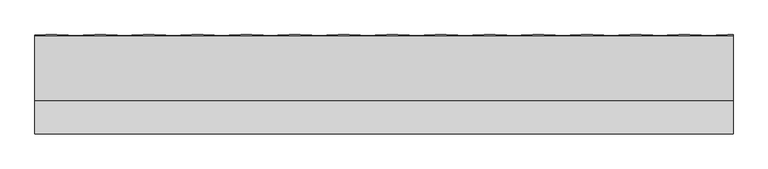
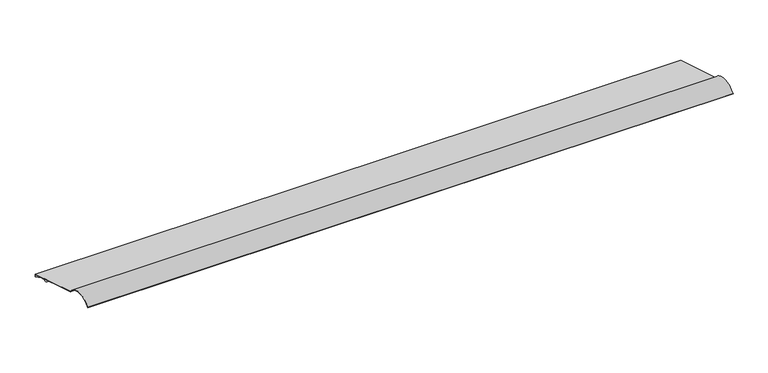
"""IFC4 building model written with IfcOpenShell, lengths in millimetres: proxy geometry, H20.F20.003-B-REMATES TEJA-Cumbrera Troquelada : Cumbrera Troquelada Teja."""

from ifc_helpers import new_model, si_unit, point, frame, origin, place, context, project, spatial, polyline, circle_curve, ellipse_curve, trimmed, source, transform, mapped, element, save
from ifc_brep_helpers import plane_surface, cylinder_surface, revolved_surface, extruded_surface, advanced_brep


def generic_models_2663ef57(model_context):
    return source(origin(), model_context, "Body", "AdvancedBrep", [
        advanced_brep(
        [(2500.0, 281.4033726, -80.897882), (2500.0, 283.699857, -124.7174144), (2500.0, 285.2976643, -124.6336769), (2500.0, 282.9425462, -79.6953478), (2500.0, 58.2444748, -10.9982533), (2500.0, -54.2044834, -5.8308046), (2500.0, -52.9905575, -6.8731021), (2500.0, 57.2523162, -12.3680268), (110.0, 57.2523162, -12.3680268), (110.0, 281.4033726, -80.897882), (110.0, -52.9905575, -6.8731021), (110.0, -54.2044834, -5.8308046), (110.0, 58.2444748, -10.9982533), (110.0, 282.9425462, -79.6953478), (2487.8721739, 285.2976643, -124.6336769), (2480.9580237, 285.0927503, -120.7236858), (2352.1819763, 285.0927503, -120.7236858), (2345.2678261, 285.2976643, -124.6336769), (2321.2121739, 285.2976643, -124.6336769), (2314.2980237, 285.0927503, -120.7236858), (2185.5219763, 285.0927503, -120.7236858), (2178.6078261, 285.2976643, -124.6336769), (2154.5521739, 285.2976643, -124.6336769), (2147.6380237, 285.0927503, -120.7236858), (2018.8619763, 285.0927503, -120.7236858), (2011.9478261, 285.2976643, -124.6336769), (1987.8921739, 285.2976643, -124.6336769), (1980.9780237, 285.0927503, -120.7236858), (1852.2019763, 285.0927503, -120.7236858), (1845.2878261, 285.2976643, -124.6336769), (1821.2321739, 285.2976643, -124.6336769), (1814.3180237, 285.0927503, -120.7236858), (1685.5419763, 285.0927503, -120.7236858), (1678.6278261, 285.2976643, -124.6336769), (1654.5721739, 285.2976643, -124.6336769), (1647.6580237, 285.0927503, -120.7236858), (1518.8819763, 285.0927503, -120.7236858), (1511.9678261, 285.2976643, -124.6336769), (1487.9121739, 285.2976643, -124.6336769), (1480.9980237, 285.0927503, -120.7236858), (1352.2219763, 285.0927503, -120.7236858), (1345.3078261, 285.2976643, -124.6336769), (1321.2521739, 285.2976643, -124.6336769), (1314.3380237, 285.0927503, -120.7236858), (1185.5619763, 285.0927503, -120.7236858), (1178.6478261, 285.2976643, -124.6336769), (1154.5921739, 285.2976643, -124.6336769), (1147.6780237, 285.0927503, -120.7236858), (1018.9019763, 285.0927503, -120.7236858), (1011.9878261, 285.2976643, -124.6336769), (987.9321739, 285.2976643, -124.6336769), (981.0180237, 285.0927503, -120.7236858), (852.2419763, 285.0927503, -120.7236858), (845.3278261, 285.2976643, -124.6336769), (821.2721739, 285.2976643, -124.6336769), (814.3580237, 285.0927503, -120.7236858), (685.5819763, 285.0927503, -120.7236858), (678.6678261, 285.2976643, -124.6336769), (654.6121739, 285.2976643, -124.6336769), (647.6980237, 285.0927503, -120.7236858), (518.9219763, 285.0927503, -120.7236858), (512.0078261, 285.2976643, -124.6336769), (487.9521739, 285.2976643, -124.6336769), (481.0380237, 285.0927503, -120.7236858), (352.2619763, 285.0927503, -120.7236858), (345.3478261, 285.2976643, -124.6336769), (321.2921739, 285.2976643, -124.6336769), (314.3780237, 285.0927503, -120.7236858), (185.6019763, 285.0927503, -120.7236858), (178.6878261, 285.2976643, -124.6336769), (154.6321739, 285.2976643, -124.6336769), (147.7180237, 285.0927503, -120.7236858), (110.0, 283.4389649, -89.1675796), (2487.8721739, 283.699857, -124.7174144), (178.6878261, 283.699857, -124.7174144), (154.6321739, 283.699857, -124.7174144), (345.3478261, 283.699857, -124.7174144), (321.2921739, 283.699857, -124.7174144), (512.0078261, 283.699857, -124.7174144), (487.9521739, 283.699857, -124.7174144), (678.6678261, 283.699857, -124.7174144), (654.6121739, 283.699857, -124.7174144), (845.3278261, 283.699857, -124.7174144), (821.2721739, 283.699857, -124.7174144), (1011.9878261, 283.699857, -124.7174144), (987.9321739, 283.699857, -124.7174144), (1178.6478261, 283.699857, -124.7174144), (1154.5921739, 283.699857, -124.7174144), (1345.3078261, 283.699857, -124.7174144), (1321.2521739, 283.699857, -124.7174144), (1511.9678261, 283.699857, -124.7174144), (1487.9121739, 283.699857, -124.7174144), (1678.6278261, 283.699857, -124.7174144), (1654.5721739, 283.699857, -124.7174144), (1845.2878261, 283.699857, -124.7174144), (1821.2321739, 283.699857, -124.7174144), (2011.9478261, 283.699857, -124.7174144), (1987.8921739, 283.699857, -124.7174144), (2178.6078261, 283.699857, -124.7174144), (2154.5521739, 283.699857, -124.7174144), (2345.2678261, 283.699857, -124.7174144), (2321.2121739, 283.699857, -124.7174144), (110.0, 281.8411576, -89.2513172), (147.7180237, 283.494943, -120.8074234), (185.6019763, 283.494943, -120.8074234), (314.3780237, 283.494943, -120.8074234), (352.2619763, 283.494943, -120.8074234), (481.0380237, 283.494943, -120.8074234), (518.9219763, 283.494943, -120.8074234), (647.6980237, 283.494943, -120.8074234), (685.5819763, 283.494943, -120.8074234), (814.3580237, 283.494943, -120.8074234), (852.2419763, 283.494943, -120.8074234), (981.0180237, 283.494943, -120.8074234), (1018.9019763, 283.494943, -120.8074234), (1147.6780237, 283.494943, -120.8074234), (1185.5619763, 283.494943, -120.8074234), (1314.3380237, 283.494943, -120.8074234), (1352.2219763, 283.494943, -120.8074234), (1480.9980237, 283.494943, -120.8074234), (1518.8819763, 283.494943, -120.8074234), (1647.6580237, 283.494943, -120.8074234), (1685.5419763, 283.494943, -120.8074234), (1814.3180237, 283.494943, -120.8074234), (1852.2019763, 283.494943, -120.8074234), (1980.9780237, 283.494943, -120.8074234), (2018.8619763, 283.494943, -120.8074234), (2147.6380237, 283.494943, -120.8074234), (2185.5219763, 283.494943, -120.8074234), (2314.2980237, 283.494943, -120.8074234), (2352.1819763, 283.494943, -120.8074234), (2480.9580237, 283.494943, -120.8074234)],
        [
            (0, 1),
            (1, 2),
            (2, 3),
            (3, 4),
            (4, 5, circle_curve(frame((2500.0, 0.0, -52.3716984), z_axis=(1.0, 0.0, 0.0), x_axis=(0.0, 1.0, 0.0)), 71.4435498)),
            (5, 6),
            (6, 7, circle_curve(frame((2500.0, 0.0, -52.3716984), z_axis=(-1.0, 0.0, 0.0), x_axis=(0.0, 1.0, 0.0)), 69.8435498)),
            (7, 0),
            (7, 8),
            (8, 9),
            (9, 0),
            (6, 10),
            (10, 8, circle_curve(frame((110.0, 0.0, -52.3716984), z_axis=(-1.0, 0.0, 0.0), x_axis=(0.0, 1.0, 0.0)), 69.8435498)),
            (5, 11),
            (11, 10),
            (4, 12),
            (12, 11, circle_curve(frame((110.0, 0.0, -52.3716984), z_axis=(1.0, 0.0, 0.0), x_axis=(0.0, 1.0, 0.0)), 71.4435498)),
            (3, 13),
            (13, 12),
            (2, 14),
            (14, 15, ellipse_curve(frame((2487.8721739, 284.8853374, -116.766012), z_axis=(0.0, 0.998629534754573, 0.052335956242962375), x_axis=(1.0, 0.0, 0.0)), 8.0, 7.878462)),
            (15, 16, ellipse_curve(frame((2416.57, 287.0242829, -157.5795235), z_axis=(0.0, -0.998629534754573, -0.052335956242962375), x_axis=(1.0, 0.0, 0.0)), 74.5, 73.3681776)),
            (16, 17, ellipse_curve(frame((2345.2678261, 284.8853374, -116.766012), z_axis=(0.0, 0.998629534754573, 0.052335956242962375), x_axis=(1.0, 0.0, 0.0)), 8.0, 7.878462)),
            (17, 18),
            (18, 19, ellipse_curve(frame((2321.2121739, 284.8853374, -116.766012), z_axis=(0.0, 0.998629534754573, 0.052335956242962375), x_axis=(1.0, 0.0, 0.0)), 8.0, 7.878462)),
            (19, 20, ellipse_curve(frame((2249.91, 287.0242829, -157.5795235), z_axis=(0.0, -0.998629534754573, -0.052335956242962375), x_axis=(1.0, 0.0, 0.0)), 74.5, 73.3681776)),
            (20, 21, ellipse_curve(frame((2178.6078261, 284.8853374, -116.766012), z_axis=(0.0, 0.998629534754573, 0.052335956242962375), x_axis=(1.0, 0.0, 0.0)), 8.0, 7.878462)),
            (21, 22),
            (22, 23, ellipse_curve(frame((2154.5521739, 284.8853374, -116.766012), z_axis=(0.0, 0.998629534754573, 0.0523359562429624), x_axis=(1.0, 0.0, 0.0)), 8.0, 7.878462)),
            (23, 24, ellipse_curve(frame((2083.25, 287.0242829, -157.5795235), z_axis=(0.0, -0.998629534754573, -0.052335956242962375), x_axis=(1.0, 0.0, 0.0)), 74.5, 73.3681776)),
            (24, 25, ellipse_curve(frame((2011.9478261, 284.8853374, -116.766012), z_axis=(0.0, 0.998629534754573, 0.052335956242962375), x_axis=(1.0, 0.0, 0.0)), 8.0, 7.878462)),
            (25, 26),
            (26, 27, ellipse_curve(frame((1987.8921739, 284.8853374, -116.766012), z_axis=(0.0, 0.998629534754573, 0.05233595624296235), x_axis=(1.0, 0.0, 0.0)), 8.0, 7.878462)),
            (27, 28, ellipse_curve(frame((1916.59, 287.0242829, -157.5795235), z_axis=(0.0, -0.998629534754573, -0.052335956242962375), x_axis=(1.0, 0.0, 0.0)), 74.5, 73.3681776)),
            (28, 29, ellipse_curve(frame((1845.2878261, 284.8853374, -116.766012), z_axis=(0.0, 0.998629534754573, 0.05233595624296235), x_axis=(1.0, 0.0, 0.0)), 8.0, 7.878462)),
            (29, 30),
            (30, 31, ellipse_curve(frame((1821.2321739, 284.8853374, -116.766012), z_axis=(0.0, 0.998629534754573, 0.052335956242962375), x_axis=(1.0, 0.0, 0.0)), 8.0, 7.878462)),
            (31, 32, ellipse_curve(frame((1749.93, 287.0242829, -157.5795235), z_axis=(0.0, -0.998629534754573, -0.052335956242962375), x_axis=(1.0, 0.0, 0.0)), 74.5, 73.3681776)),
            (32, 33, ellipse_curve(frame((1678.6278261, 284.8853374, -116.766012), z_axis=(0.0, 0.998629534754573, 0.052335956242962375), x_axis=(1.0, 0.0, 0.0)), 8.0, 7.878462)),
            (33, 34),
            (34, 35, ellipse_curve(frame((1654.5721739, 284.8853374, -116.766012), z_axis=(0.0, 0.998629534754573, 0.052335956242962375), x_axis=(1.0, 0.0, 0.0)), 8.0, 7.878462)),
            (35, 36, ellipse_curve(frame((1583.27, 287.0242829, -157.5795235), z_axis=(0.0, -0.998629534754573, -0.052335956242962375), x_axis=(1.0, 0.0, 0.0)), 74.5, 73.3681776)),
            (36, 37, ellipse_curve(frame((1511.9678261, 284.8853374, -116.766012), z_axis=(0.0, 0.998629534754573, 0.052335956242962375), x_axis=(1.0, 0.0, 0.0)), 8.0, 7.878462)),
            (37, 38),
            (38, 39, ellipse_curve(frame((1487.9121739, 284.8853374, -116.766012), z_axis=(0.0, 0.998629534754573, 0.0523359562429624), x_axis=(1.0, 0.0, 0.0)), 8.0, 7.878462)),
            (39, 40, ellipse_curve(frame((1416.61, 287.0242829, -157.5795235), z_axis=(0.0, -0.998629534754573, -0.052335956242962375), x_axis=(1.0, 0.0, 0.0)), 74.5, 73.3681776)),
            (40, 41, ellipse_curve(frame((1345.3078261, 284.8853374, -116.766012), z_axis=(0.0, 0.998629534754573, 0.052335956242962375), x_axis=(1.0, 0.0, 0.0)), 8.0, 7.878462)),
            (41, 42),
            (42, 43, ellipse_curve(frame((1321.2521739, 284.8853374, -116.766012), z_axis=(0.0, 0.998629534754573, 0.05233595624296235), x_axis=(1.0, 0.0, 0.0)), 8.0, 7.878462)),
            (43, 44, ellipse_curve(frame((1249.95, 287.0242829, -157.5795235), z_axis=(0.0, -0.998629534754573, -0.052335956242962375), x_axis=(1.0, 0.0, 0.0)), 74.5, 73.3681776)),
            (44, 45, ellipse_curve(frame((1178.6478261, 284.8853374, -116.766012), z_axis=(0.0, 0.998629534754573, 0.052335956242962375), x_axis=(1.0, 0.0, 0.0)), 8.0, 7.878462)),
            (45, 46),
            (46, 47, ellipse_curve(frame((1154.5921739, 284.8853374, -116.766012), z_axis=(0.0, 0.998629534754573, 0.052335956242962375), x_axis=(1.0, 0.0, 0.0)), 8.0, 7.878462)),
            (47, 48, ellipse_curve(frame((1083.29, 287.0242829, -157.5795235), z_axis=(0.0, -0.998629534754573, -0.0523359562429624), x_axis=(1.0, 0.0, 0.0)), 74.5, 73.3681776)),
            (48, 49, ellipse_curve(frame((1011.9878261, 284.8853374, -116.766012), z_axis=(0.0, 0.998629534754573, 0.052335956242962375), x_axis=(1.0, 0.0, 0.0)), 8.0, 7.878462)),
            (49, 50),
            (50, 51, ellipse_curve(frame((987.9321739, 284.8853374, -116.766012), z_axis=(0.0, 0.998629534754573, 0.052335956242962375), x_axis=(1.0, 0.0, 0.0)), 8.0, 7.878462)),
            (51, 52, ellipse_curve(frame((916.63, 287.0242829, -157.5795235), z_axis=(0.0, -0.998629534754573, -0.052335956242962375), x_axis=(1.0, 0.0, 0.0)), 74.5, 73.3681776)),
            (52, 53, ellipse_curve(frame((845.3278261, 284.8853374, -116.766012), z_axis=(0.0, 0.998629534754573, 0.052335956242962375), x_axis=(1.0, 0.0, 0.0)), 8.0, 7.878462)),
            (53, 54),
            (54, 55, ellipse_curve(frame((821.2721739, 284.8853374, -116.766012), z_axis=(0.0, 0.998629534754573, 0.052335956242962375), x_axis=(1.0, 0.0, 0.0)), 8.0, 7.878462)),
            (55, 56, ellipse_curve(frame((749.97, 287.0242829, -157.5795235), z_axis=(0.0, -0.998629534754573, -0.052335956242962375), x_axis=(1.0, 0.0, 0.0)), 74.5, 73.3681776)),
            (56, 57, ellipse_curve(frame((678.6678261, 284.8853374, -116.766012), z_axis=(0.0, 0.998629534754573, 0.052335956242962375), x_axis=(1.0, 0.0, 0.0)), 8.0, 7.878462)),
            (57, 58),
            (58, 59, ellipse_curve(frame((654.6121739, 284.8853374, -116.766012), z_axis=(0.0, 0.998629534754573, 0.052335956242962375), x_axis=(1.0, 0.0, 0.0)), 8.0, 7.878462)),
            (59, 60, ellipse_curve(frame((583.31, 287.0242829, -157.5795235), z_axis=(0.0, -0.998629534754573, -0.052335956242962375), x_axis=(1.0, 0.0, 0.0)), 74.5, 73.3681776)),
            (60, 61, ellipse_curve(frame((512.0078261, 284.8853374, -116.766012), z_axis=(0.0, 0.998629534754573, 0.052335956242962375), x_axis=(1.0, 0.0, 0.0)), 8.0, 7.878462)),
            (61, 62),
            (62, 63, ellipse_curve(frame((487.9521739, 284.8853374, -116.766012), z_axis=(0.0, 0.998629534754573, 0.052335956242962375), x_axis=(1.0, 0.0, 0.0)), 8.0, 7.878462)),
            (63, 64, ellipse_curve(frame((416.65, 287.0242829, -157.5795235), z_axis=(0.0, -0.998629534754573, -0.052335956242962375), x_axis=(1.0, 0.0, 0.0)), 74.5, 73.3681776)),
            (64, 65, ellipse_curve(frame((345.3478261, 284.8853374, -116.766012), z_axis=(0.0, 0.998629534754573, 0.052335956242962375), x_axis=(1.0, 0.0, 0.0)), 8.0, 7.878462)),
            (65, 66),
            (66, 67, ellipse_curve(frame((321.2921739, 284.8853374, -116.766012), z_axis=(0.0, 0.998629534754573, 0.0523359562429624), x_axis=(1.0, 0.0, 0.0)), 8.0, 7.878462)),
            (67, 68, ellipse_curve(frame((249.99, 287.0242829, -157.5795235), z_axis=(0.0, -0.998629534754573, -0.052335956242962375), x_axis=(1.0, 0.0, 0.0)), 74.5, 73.3681776)),
            (68, 69, ellipse_curve(frame((178.6878261, 284.8853374, -116.766012), z_axis=(0.0, 0.998629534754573, 0.052335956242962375), x_axis=(1.0, 0.0, 0.0)), 8.0, 7.878462)),
            (69, 70),
            (70, 71, ellipse_curve(frame((154.6321739, 284.8853374, -116.766012), z_axis=(0.0, 0.998629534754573, 0.052335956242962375), x_axis=(1.0, 0.0, 0.0)), 8.0, 7.878462)),
            (71, 72, ellipse_curve(frame((83.33, 287.0242829, -157.5795235), z_axis=(0.0, -0.998629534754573, -0.052335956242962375), x_axis=(1.0, 0.0, 0.0)), 74.5, 73.3681776)),
            (72, 13),
            (1, 73),
            (73, 14),
            (69, 74),
            (74, 75),
            (75, 70),
            (65, 76),
            (76, 77),
            (77, 66),
            (61, 78),
            (78, 79),
            (79, 62),
            (57, 80),
            (80, 81),
            (81, 58),
            (53, 82),
            (82, 83),
            (83, 54),
            (49, 84),
            (84, 85),
            (85, 50),
            (45, 86),
            (86, 87),
            (87, 46),
            (41, 88),
            (88, 89),
            (89, 42),
            (37, 90),
            (90, 91),
            (91, 38),
            (33, 92),
            (92, 93),
            (93, 34),
            (29, 94),
            (94, 95),
            (95, 30),
            (25, 96),
            (96, 97),
            (97, 26),
            (21, 98),
            (98, 99),
            (99, 22),
            (17, 100),
            (100, 101),
            (101, 18),
            (9, 102),
            (102, 103, ellipse_curve(frame((83.33, 285.4264757, -157.663261), z_axis=(0.0, 0.998629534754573, 0.052335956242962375), x_axis=(1.0, 0.0, 0.0)), 74.5, 73.3681776)),
            (103, 75, ellipse_curve(frame((154.6321739, 283.2875302, -116.8497495), z_axis=(0.0, -0.998629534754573, -0.052335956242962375), x_axis=(1.0, 0.0, 0.0)), 8.0, 7.878462)),
            (74, 104, ellipse_curve(frame((178.6878261, 283.2875302, -116.8497495), z_axis=(0.0, -0.998629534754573, -0.052335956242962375), x_axis=(1.0, 0.0, 0.0)), 8.0, 7.878462)),
            (104, 105, ellipse_curve(frame((249.99, 285.4264757, -157.663261), z_axis=(0.0, 0.998629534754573, 0.052335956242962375), x_axis=(1.0, 0.0, 0.0)), 74.5, 73.3681776)),
            (105, 77, ellipse_curve(frame((321.2921739, 283.2875302, -116.8497495), z_axis=(0.0, -0.998629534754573, -0.0523359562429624), x_axis=(1.0, 0.0, 0.0)), 8.0, 7.878462)),
            (76, 106, ellipse_curve(frame((345.3478261, 283.2875302, -116.8497495), z_axis=(0.0, -0.998629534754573, -0.052335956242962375), x_axis=(1.0, 0.0, 0.0)), 8.0, 7.878462)),
            (106, 107, ellipse_curve(frame((416.65, 285.4264757, -157.663261), z_axis=(0.0, 0.998629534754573, 0.052335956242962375), x_axis=(1.0, 0.0, 0.0)), 74.5, 73.3681776)),
            (107, 79, ellipse_curve(frame((487.9521739, 283.2875302, -116.8497495), z_axis=(0.0, -0.998629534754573, -0.052335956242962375), x_axis=(1.0, 0.0, 0.0)), 8.0, 7.878462)),
            (78, 108, ellipse_curve(frame((512.0078261, 283.2875302, -116.8497495), z_axis=(0.0, -0.998629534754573, -0.052335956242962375), x_axis=(1.0, 0.0, 0.0)), 8.0, 7.878462)),
            (108, 109, ellipse_curve(frame((583.31, 285.4264757, -157.663261), z_axis=(0.0, 0.998629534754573, 0.052335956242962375), x_axis=(1.0, 0.0, 0.0)), 74.5, 73.3681776)),
            (109, 81, ellipse_curve(frame((654.6121739, 283.2875302, -116.8497495), z_axis=(0.0, -0.998629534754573, -0.052335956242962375), x_axis=(1.0, 0.0, 0.0)), 8.0, 7.878462)),
            (80, 110, ellipse_curve(frame((678.6678261, 283.2875302, -116.8497495), z_axis=(0.0, -0.998629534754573, -0.052335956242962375), x_axis=(1.0, 0.0, 0.0)), 8.0, 7.878462)),
            (110, 111, ellipse_curve(frame((749.97, 285.4264757, -157.663261), z_axis=(0.0, 0.998629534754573, 0.052335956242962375), x_axis=(1.0, 0.0, 0.0)), 74.5, 73.3681776)),
            (111, 83, ellipse_curve(frame((821.2721739, 283.2875302, -116.8497495), z_axis=(0.0, -0.998629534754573, -0.052335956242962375), x_axis=(1.0, 0.0, 0.0)), 8.0, 7.878462)),
            (82, 112, ellipse_curve(frame((845.3278261, 283.2875302, -116.8497495), z_axis=(0.0, -0.998629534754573, -0.052335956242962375), x_axis=(1.0, 0.0, 0.0)), 8.0, 7.878462)),
            (112, 113, ellipse_curve(frame((916.63, 285.4264757, -157.663261), z_axis=(0.0, 0.998629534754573, 0.052335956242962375), x_axis=(1.0, 0.0, 0.0)), 74.5, 73.3681776)),
            (113, 85, ellipse_curve(frame((987.9321739, 283.2875302, -116.8497495), z_axis=(0.0, -0.998629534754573, -0.052335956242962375), x_axis=(1.0, 0.0, 0.0)), 8.0, 7.878462)),
            (84, 114, ellipse_curve(frame((1011.9878261, 283.2875302, -116.8497495), z_axis=(0.0, -0.998629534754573, -0.052335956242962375), x_axis=(1.0, 0.0, 0.0)), 8.0, 7.878462)),
            (114, 115, ellipse_curve(frame((1083.29, 285.4264757, -157.663261), z_axis=(0.0, 0.998629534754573, 0.0523359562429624), x_axis=(1.0, 0.0, 0.0)), 74.5, 73.3681776)),
            (115, 87, ellipse_curve(frame((1154.5921739, 283.2875302, -116.8497495), z_axis=(0.0, -0.998629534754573, -0.052335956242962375), x_axis=(1.0, 0.0, 0.0)), 8.0, 7.878462)),
            (86, 116, ellipse_curve(frame((1178.6478261, 283.2875302, -116.8497495), z_axis=(0.0, -0.998629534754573, -0.052335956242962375), x_axis=(1.0, 0.0, 0.0)), 8.0, 7.878462)),
            (116, 117, ellipse_curve(frame((1249.95, 285.4264757, -157.663261), z_axis=(0.0, 0.998629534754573, 0.052335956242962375), x_axis=(1.0, 0.0, 0.0)), 74.5, 73.3681776)),
            (117, 89, ellipse_curve(frame((1321.2521739, 283.2875302, -116.8497495), z_axis=(0.0, -0.998629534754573, -0.05233595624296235), x_axis=(1.0, 0.0, 0.0)), 8.0, 7.878462)),
            (88, 118, ellipse_curve(frame((1345.3078261, 283.2875302, -116.8497495), z_axis=(0.0, -0.998629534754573, -0.052335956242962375), x_axis=(1.0, 0.0, 0.0)), 8.0, 7.878462)),
            (118, 119, ellipse_curve(frame((1416.61, 285.4264757, -157.663261), z_axis=(0.0, 0.998629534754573, 0.052335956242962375), x_axis=(1.0, 0.0, 0.0)), 74.5, 73.3681776)),
            (119, 91, ellipse_curve(frame((1487.9121739, 283.2875302, -116.8497495), z_axis=(0.0, -0.998629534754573, -0.0523359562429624), x_axis=(1.0, 0.0, 0.0)), 8.0, 7.878462)),
            (90, 120, ellipse_curve(frame((1511.9678261, 283.2875302, -116.8497495), z_axis=(0.0, -0.998629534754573, -0.052335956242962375), x_axis=(1.0, 0.0, 0.0)), 8.0, 7.878462)),
            (120, 121, ellipse_curve(frame((1583.27, 285.4264757, -157.663261), z_axis=(0.0, 0.998629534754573, 0.052335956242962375), x_axis=(1.0, 0.0, 0.0)), 74.5, 73.3681776)),
            (121, 93, ellipse_curve(frame((1654.5721739, 283.2875302, -116.8497495), z_axis=(0.0, -0.998629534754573, -0.052335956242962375), x_axis=(1.0, 0.0, 0.0)), 8.0, 7.878462)),
            (92, 122, ellipse_curve(frame((1678.6278261, 283.2875302, -116.8497495), z_axis=(0.0, -0.998629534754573, -0.052335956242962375), x_axis=(1.0, 0.0, 0.0)), 8.0, 7.878462)),
            (122, 123, ellipse_curve(frame((1749.93, 285.4264757, -157.663261), z_axis=(0.0, 0.998629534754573, 0.052335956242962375), x_axis=(1.0, 0.0, 0.0)), 74.5, 73.3681776)),
            (123, 95, ellipse_curve(frame((1821.2321739, 283.2875302, -116.8497495), z_axis=(0.0, -0.998629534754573, -0.052335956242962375), x_axis=(1.0, 0.0, 0.0)), 8.0, 7.878462)),
            (94, 124, ellipse_curve(frame((1845.2878261, 283.2875302, -116.8497495), z_axis=(0.0, -0.998629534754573, -0.05233595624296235), x_axis=(1.0, 0.0, 0.0)), 8.0, 7.878462)),
            (124, 125, ellipse_curve(frame((1916.59, 285.4264757, -157.663261), z_axis=(0.0, 0.998629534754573, 0.052335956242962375), x_axis=(1.0, 0.0, 0.0)), 74.5, 73.3681776)),
            (125, 97, ellipse_curve(frame((1987.8921739, 283.2875302, -116.8497495), z_axis=(0.0, -0.998629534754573, -0.05233595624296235), x_axis=(1.0, 0.0, 0.0)), 8.0, 7.878462)),
            (96, 126, ellipse_curve(frame((2011.9478261, 283.2875302, -116.8497495), z_axis=(0.0, -0.998629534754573, -0.052335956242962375), x_axis=(1.0, 0.0, 0.0)), 8.0, 7.878462)),
            (126, 127, ellipse_curve(frame((2083.25, 285.4264757, -157.663261), z_axis=(0.0, 0.998629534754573, 0.052335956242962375), x_axis=(1.0, 0.0, 0.0)), 74.5, 73.3681776)),
            (127, 99, ellipse_curve(frame((2154.5521739, 283.2875302, -116.8497495), z_axis=(0.0, -0.998629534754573, -0.0523359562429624), x_axis=(1.0, 0.0, 0.0)), 8.0, 7.878462)),
            (98, 128, ellipse_curve(frame((2178.6078261, 283.2875302, -116.8497495), z_axis=(0.0, -0.998629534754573, -0.052335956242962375), x_axis=(1.0, 0.0, 0.0)), 8.0, 7.878462)),
            (128, 129, ellipse_curve(frame((2249.91, 285.4264757, -157.663261), z_axis=(0.0, 0.998629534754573, 0.052335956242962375), x_axis=(1.0, 0.0, 0.0)), 74.5, 73.3681776)),
            (129, 101, ellipse_curve(frame((2321.2121739, 283.2875302, -116.8497495), z_axis=(0.0, -0.998629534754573, -0.052335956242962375), x_axis=(1.0, 0.0, 0.0)), 8.0, 7.878462)),
            (100, 130, ellipse_curve(frame((2345.2678261, 283.2875302, -116.8497495), z_axis=(0.0, -0.998629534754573, -0.052335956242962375), x_axis=(1.0, 0.0, 0.0)), 8.0, 7.878462)),
            (130, 131, ellipse_curve(frame((2416.57, 285.4264757, -157.663261), z_axis=(0.0, 0.998629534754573, 0.052335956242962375), x_axis=(1.0, 0.0, 0.0)), 74.5, 73.3681776)),
            (131, 73, ellipse_curve(frame((2487.8721739, 283.2875302, -116.8497495), z_axis=(0.0, -0.998629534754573, -0.052335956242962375), x_axis=(1.0, 0.0, 0.0)), 8.0, 7.878462)),
            (102, 72),
            (71, 103),
            (68, 104),
            (67, 105),
            (64, 106),
            (63, 107),
            (60, 108),
            (59, 109),
            (56, 110),
            (55, 111),
            (52, 112),
            (51, 113),
            (48, 114),
            (47, 115),
            (44, 116),
            (43, 117),
            (40, 118),
            (39, 119),
            (36, 120),
            (35, 121),
            (32, 122),
            (31, 123),
            (28, 124),
            (27, 125),
            (24, 126),
            (23, 127),
            (20, 128),
            (19, 129),
            (16, 130),
            (15, 131),
        ],
        [
            plane_surface(frame((2500.0, 0.0, 0.0), z_axis=(1.0, 0.0, 0.0), x_axis=(0.0, 0.0, 1.0))),
            plane_surface(frame((2500.0, 281.4033726, -80.897882), z_axis=(0.0, -0.2923717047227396, -0.9563047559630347), x_axis=(-1.0, 0.0, 0.0))),
            revolved_surface(polyline([(110.0, 69.8435498, -52.3716984), (2500.0, 69.8435498, -52.3716984)]), (2500.0, 0.0, -52.3716984), (-1.0, 0.0, 0.0)),
            plane_surface(frame((2500.0, -52.9905575, -6.8731021), z_axis=(0.0, -0.6514359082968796, -0.7587036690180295), x_axis=(-1.0, 0.0, 0.0))),
            cylinder_surface(frame((2500.0, 0.0, -52.3716984), z_axis=(1.0, 0.0, 0.0), x_axis=(0.0, 1.0, 0.0)), 71.4435498),
            plane_surface(frame((2500.0, 58.2444748, -10.9982533), z_axis=(0.0, 0.2923717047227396, 0.9563047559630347), x_axis=(-1.0, 0.0, 0.0))),
            plane_surface(frame((2500.0, 282.9425462, -79.6953478), z_axis=(0.0, 0.998629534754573, 0.05233595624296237), x_axis=(-1.0, 0.0, 0.0))),
            plane_surface(frame((2500.0, 285.2976643, -124.6336769), z_axis=(0.0, 0.05233595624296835, -0.9986295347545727), x_axis=(-1.0, 0.0, 0.0))),
            plane_surface(frame((2500.0, 283.699857, -124.7174144), z_axis=(0.0, -0.9986295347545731, -0.05233595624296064), x_axis=(-1.0, 0.0, 0.0))),
            extruded_surface(trimmed(ellipse_curve(frame((83.33, 289.021542, -157.4748516), z_axis=(0.0, 0.998629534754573, 0.052335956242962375), x_axis=(1.0, 0.0, 0.0)), 74.5, 73.3681776), [point((18.9419763, 287.0900094, -120.6190139))], [point((147.7180237, 287.0900094, -120.6190139))], True, "CARTESIAN"), (0.0, -1.997259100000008, -0.1046718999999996), 2.0000000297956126),
            extruded_surface(trimmed(ellipse_curve(frame((154.6321739, 286.8825965, -116.6613401), z_axis=(0.0, -0.998629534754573, -0.052335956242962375), x_axis=(1.0, 0.0, 0.0)), 8.0, 7.878462), [point((147.7180237, 287.0900094, -120.6190139))], [point((154.6321739, 287.2949233, -124.5290049))], True, "CARTESIAN"), (0.0, -1.997259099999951, -0.1046718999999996), 2.000000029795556),
            extruded_surface(trimmed(ellipse_curve(frame((178.6878261, 286.8825965, -116.6613401), z_axis=(0.0, -0.998629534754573, -0.052335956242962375), x_axis=(1.0, 0.0, 0.0)), 8.0, 7.878462), [point((178.6878261, 287.2949233, -124.5290049))], [point((185.6019763, 287.0900094, -120.6190139))], True, "CARTESIAN"), (0.0, -1.997259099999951, -0.1046718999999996), 2.000000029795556),
            extruded_surface(trimmed(ellipse_curve(frame((249.99, 289.021542, -157.4748516), z_axis=(0.0, 0.998629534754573, 0.052335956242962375), x_axis=(1.0, 0.0, 0.0)), 74.5, 73.3681776), [point((185.6019763, 287.0900094, -120.6190139))], [point((314.3780237, 287.0900094, -120.6190139))], True, "CARTESIAN"), (0.0, -1.997259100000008, -0.1046718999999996), 2.0000000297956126),
            extruded_surface(trimmed(ellipse_curve(frame((321.2921739, 286.8825965, -116.6613401), z_axis=(0.0, -0.998629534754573, -0.0523359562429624), x_axis=(1.0, 0.0, 0.0)), 8.0, 7.878462), [point((314.3780237, 287.0900094, -120.6190139))], [point((321.2921739, 287.2949233, -124.5290049))], True, "CARTESIAN"), (0.0, -1.997259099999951, -0.1046718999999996), 2.000000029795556),
            extruded_surface(trimmed(ellipse_curve(frame((345.3478261, 286.8825965, -116.6613401), z_axis=(0.0, -0.998629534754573, -0.052335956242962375), x_axis=(1.0, 0.0, 0.0)), 8.0, 7.878462), [point((345.3478261, 287.2949233, -124.5290049))], [point((352.2619763, 287.0900094, -120.6190139))], True, "CARTESIAN"), (0.0, -1.997259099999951, -0.1046718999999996), 2.000000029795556),
            extruded_surface(trimmed(ellipse_curve(frame((416.65, 289.021542, -157.4748516), z_axis=(0.0, 0.998629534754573, 0.052335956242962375), x_axis=(1.0, 0.0, 0.0)), 74.5, 73.3681776), [point((352.2619763, 287.0900094, -120.6190139))], [point((481.0380237, 287.0900094, -120.6190139))], True, "CARTESIAN"), (0.0, -1.997259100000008, -0.1046718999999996), 2.0000000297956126),
            extruded_surface(trimmed(ellipse_curve(frame((487.9521739, 286.8825965, -116.6613401), z_axis=(0.0, -0.998629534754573, -0.052335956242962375), x_axis=(1.0, 0.0, 0.0)), 8.0, 7.878462), [point((481.0380237, 287.0900094, -120.6190139))], [point((487.9521739, 287.2949233, -124.5290049))], True, "CARTESIAN"), (0.0, -1.997259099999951, -0.1046718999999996), 2.000000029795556),
            extruded_surface(trimmed(ellipse_curve(frame((512.0078261, 286.8825965, -116.6613401), z_axis=(0.0, -0.998629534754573, -0.052335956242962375), x_axis=(1.0, 0.0, 0.0)), 8.0, 7.878462), [point((512.0078261, 287.2949233, -124.5290049))], [point((518.9219763, 287.0900094, -120.6190139))], True, "CARTESIAN"), (0.0, -1.997259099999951, -0.1046718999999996), 2.000000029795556),
            extruded_surface(trimmed(ellipse_curve(frame((583.31, 289.021542, -157.4748516), z_axis=(0.0, 0.998629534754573, 0.052335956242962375), x_axis=(1.0, 0.0, 0.0)), 74.5, 73.3681776), [point((518.9219763, 287.0900094, -120.6190139))], [point((647.6980237, 287.0900094, -120.6190139))], True, "CARTESIAN"), (0.0, -1.997259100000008, -0.1046718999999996), 2.0000000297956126),
            extruded_surface(trimmed(ellipse_curve(frame((654.6121739, 286.8825965, -116.6613401), z_axis=(0.0, -0.998629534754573, -0.052335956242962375), x_axis=(1.0, 0.0, 0.0)), 8.0, 7.878462), [point((647.6980237, 287.0900094, -120.6190139))], [point((654.6121739, 287.2949233, -124.5290049))], True, "CARTESIAN"), (0.0, -1.997259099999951, -0.1046718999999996), 2.000000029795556),
            extruded_surface(trimmed(ellipse_curve(frame((678.6678261, 286.8825965, -116.6613401), z_axis=(0.0, -0.998629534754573, -0.052335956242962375), x_axis=(1.0, 0.0, 0.0)), 8.0, 7.878462), [point((678.6678261, 287.2949233, -124.5290049))], [point((685.5819763, 287.0900094, -120.6190139))], True, "CARTESIAN"), (0.0, -1.997259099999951, -0.1046718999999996), 2.000000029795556),
            extruded_surface(trimmed(ellipse_curve(frame((749.97, 289.021542, -157.4748516), z_axis=(0.0, 0.998629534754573, 0.052335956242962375), x_axis=(1.0, 0.0, 0.0)), 74.5, 73.3681776), [point((685.5819763, 287.0900094, -120.6190139))], [point((814.3580237, 287.0900094, -120.6190139))], True, "CARTESIAN"), (0.0, -1.997259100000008, -0.1046718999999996), 2.0000000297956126),
            extruded_surface(trimmed(ellipse_curve(frame((821.2721739, 286.8825965, -116.6613401), z_axis=(0.0, -0.998629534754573, -0.052335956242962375), x_axis=(1.0, 0.0, 0.0)), 8.0, 7.878462), [point((814.3580237, 287.0900094, -120.6190139))], [point((821.2721739, 287.2949233, -124.5290049))], True, "CARTESIAN"), (0.0, -1.997259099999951, -0.1046718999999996), 2.000000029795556),
            extruded_surface(trimmed(ellipse_curve(frame((845.3278261, 286.8825965, -116.6613401), z_axis=(0.0, -0.998629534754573, -0.052335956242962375), x_axis=(1.0, 0.0, 0.0)), 8.0, 7.878462), [point((845.3278261, 287.2949233, -124.5290049))], [point((852.2419763, 287.0900094, -120.6190139))], True, "CARTESIAN"), (0.0, -1.997259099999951, -0.1046718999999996), 2.000000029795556),
            extruded_surface(trimmed(ellipse_curve(frame((916.63, 289.021542, -157.4748516), z_axis=(0.0, 0.998629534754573, 0.052335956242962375), x_axis=(1.0, 0.0, 0.0)), 74.5, 73.3681776), [point((852.2419763, 287.0900094, -120.6190139))], [point((981.0180237, 287.0900094, -120.6190139))], True, "CARTESIAN"), (0.0, -1.997259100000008, -0.1046718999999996), 2.0000000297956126),
            extruded_surface(trimmed(ellipse_curve(frame((987.9321739, 286.8825965, -116.6613401), z_axis=(0.0, -0.998629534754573, -0.052335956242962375), x_axis=(1.0, 0.0, 0.0)), 8.0, 7.878462), [point((981.0180237, 287.0900094, -120.6190139))], [point((987.9321739, 287.2949233, -124.5290049))], True, "CARTESIAN"), (0.0, -1.997259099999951, -0.1046718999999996), 2.000000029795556),
            extruded_surface(trimmed(ellipse_curve(frame((1011.9878261, 286.8825965, -116.6613401), z_axis=(0.0, -0.998629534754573, -0.052335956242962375), x_axis=(1.0, 0.0, 0.0)), 8.0, 7.878462), [point((1011.9878261, 287.2949233, -124.5290049))], [point((1018.9019763, 287.0900094, -120.6190139))], True, "CARTESIAN"), (0.0, -1.997259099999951, -0.1046718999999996), 2.000000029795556),
            extruded_surface(trimmed(ellipse_curve(frame((1083.29, 289.021542, -157.4748516), z_axis=(0.0, 0.998629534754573, 0.0523359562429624), x_axis=(1.0, 0.0, 0.0)), 74.5, 73.3681776), [point((1018.9019763, 287.0900094, -120.6190139))], [point((1147.6780237, 287.0900094, -120.6190139))], True, "CARTESIAN"), (0.0, -1.997259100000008, -0.1046718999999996), 2.0000000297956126),
            extruded_surface(trimmed(ellipse_curve(frame((1154.5921739, 286.8825965, -116.6613401), z_axis=(0.0, -0.998629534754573, -0.052335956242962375), x_axis=(1.0, 0.0, 0.0)), 8.0, 7.878462), [point((1147.6780237, 287.0900094, -120.6190139))], [point((1154.5921739, 287.2949233, -124.5290049))], True, "CARTESIAN"), (0.0, -1.997259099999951, -0.1046718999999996), 2.000000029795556),
            extruded_surface(trimmed(ellipse_curve(frame((1178.6478261, 286.8825965, -116.6613401), z_axis=(0.0, -0.998629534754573, -0.052335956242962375), x_axis=(1.0, 0.0, 0.0)), 8.0, 7.878462), [point((1178.6478261, 287.2949233, -124.5290049))], [point((1185.5619763, 287.0900094, -120.6190139))], True, "CARTESIAN"), (0.0, -1.997259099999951, -0.1046718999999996), 2.000000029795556),
            extruded_surface(trimmed(ellipse_curve(frame((1249.95, 289.021542, -157.4748516), z_axis=(0.0, 0.998629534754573, 0.052335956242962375), x_axis=(1.0, 0.0, 0.0)), 74.5, 73.3681776), [point((1185.5619763, 287.0900094, -120.6190139))], [point((1314.3380237, 287.0900094, -120.6190139))], True, "CARTESIAN"), (0.0, -1.997259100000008, -0.1046718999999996), 2.0000000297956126),
            extruded_surface(trimmed(ellipse_curve(frame((1321.2521739, 286.8825965, -116.6613401), z_axis=(0.0, -0.998629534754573, -0.05233595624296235), x_axis=(1.0, 0.0, 0.0)), 8.0, 7.878462), [point((1314.3380237, 287.0900094, -120.6190139))], [point((1321.2521739, 287.2949233, -124.5290049))], True, "CARTESIAN"), (0.0, -1.997259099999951, -0.1046718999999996), 2.000000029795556),
            extruded_surface(trimmed(ellipse_curve(frame((1345.3078261, 286.8825965, -116.6613401), z_axis=(0.0, -0.998629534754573, -0.052335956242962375), x_axis=(1.0, 0.0, 0.0)), 8.0, 7.878462), [point((1345.3078261, 287.2949233, -124.5290049))], [point((1352.2219763, 287.0900094, -120.6190139))], True, "CARTESIAN"), (0.0, -1.997259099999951, -0.1046718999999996), 2.000000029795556),
            extruded_surface(trimmed(ellipse_curve(frame((1416.61, 289.021542, -157.4748516), z_axis=(0.0, 0.998629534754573, 0.052335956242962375), x_axis=(1.0, 0.0, 0.0)), 74.5, 73.3681776), [point((1352.2219763, 287.0900094, -120.6190139))], [point((1480.9980237, 287.0900094, -120.6190139))], True, "CARTESIAN"), (0.0, -1.997259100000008, -0.1046718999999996), 2.0000000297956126),
            extruded_surface(trimmed(ellipse_curve(frame((1487.9121739, 286.8825965, -116.6613401), z_axis=(0.0, -0.998629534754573, -0.0523359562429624), x_axis=(1.0, 0.0, 0.0)), 8.0, 7.878462), [point((1480.9980237, 287.0900094, -120.6190139))], [point((1487.9121739, 287.2949233, -124.5290049))], True, "CARTESIAN"), (0.0, -1.997259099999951, -0.1046718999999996), 2.000000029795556),
            extruded_surface(trimmed(ellipse_curve(frame((1511.9678261, 286.8825965, -116.6613401), z_axis=(0.0, -0.998629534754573, -0.052335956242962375), x_axis=(1.0, 0.0, 0.0)), 8.0, 7.878462), [point((1511.9678261, 287.2949233, -124.5290049))], [point((1518.8819763, 287.0900094, -120.6190139))], True, "CARTESIAN"), (0.0, -1.997259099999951, -0.1046718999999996), 2.000000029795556),
            extruded_surface(trimmed(ellipse_curve(frame((1583.27, 289.021542, -157.4748516), z_axis=(0.0, 0.998629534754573, 0.052335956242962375), x_axis=(1.0, 0.0, 0.0)), 74.5, 73.3681776), [point((1518.8819763, 287.0900094, -120.6190139))], [point((1647.6580237, 287.0900094, -120.6190139))], True, "CARTESIAN"), (0.0, -1.997259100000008, -0.1046718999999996), 2.0000000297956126),
            extruded_surface(trimmed(ellipse_curve(frame((1654.5721739, 286.8825965, -116.6613401), z_axis=(0.0, -0.998629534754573, -0.052335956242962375), x_axis=(1.0, 0.0, 0.0)), 8.0, 7.878462), [point((1647.6580237, 287.0900094, -120.6190139))], [point((1654.5721739, 287.2949233, -124.5290049))], True, "CARTESIAN"), (0.0, -1.997259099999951, -0.1046718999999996), 2.000000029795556),
            extruded_surface(trimmed(ellipse_curve(frame((1678.6278261, 286.8825965, -116.6613401), z_axis=(0.0, -0.998629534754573, -0.052335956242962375), x_axis=(1.0, 0.0, 0.0)), 8.0, 7.878462), [point((1678.6278261, 287.2949233, -124.5290049))], [point((1685.5419763, 287.0900094, -120.6190139))], True, "CARTESIAN"), (0.0, -1.997259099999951, -0.1046718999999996), 2.000000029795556),
            extruded_surface(trimmed(ellipse_curve(frame((1749.93, 289.021542, -157.4748516), z_axis=(0.0, 0.998629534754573, 0.052335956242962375), x_axis=(1.0, 0.0, 0.0)), 74.5, 73.3681776), [point((1685.5419763, 287.0900094, -120.6190139))], [point((1814.3180237, 287.0900094, -120.6190139))], True, "CARTESIAN"), (0.0, -1.997259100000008, -0.1046718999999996), 2.0000000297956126),
            extruded_surface(trimmed(ellipse_curve(frame((1821.2321739, 286.8825965, -116.6613401), z_axis=(0.0, -0.998629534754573, -0.052335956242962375), x_axis=(1.0, 0.0, 0.0)), 8.0, 7.878462), [point((1814.3180237, 287.0900094, -120.6190139))], [point((1821.2321739, 287.2949233, -124.5290049))], True, "CARTESIAN"), (0.0, -1.997259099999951, -0.1046718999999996), 2.000000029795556),
            extruded_surface(trimmed(ellipse_curve(frame((1845.2878261, 286.8825965, -116.6613401), z_axis=(0.0, -0.998629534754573, -0.05233595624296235), x_axis=(1.0, 0.0, 0.0)), 8.0, 7.878462), [point((1845.2878261, 287.2949233, -124.5290049))], [point((1852.2019763, 287.0900094, -120.6190139))], True, "CARTESIAN"), (0.0, -1.997259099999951, -0.1046718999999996), 2.000000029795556),
            extruded_surface(trimmed(ellipse_curve(frame((1916.59, 289.021542, -157.4748516), z_axis=(0.0, 0.998629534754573, 0.052335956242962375), x_axis=(1.0, 0.0, 0.0)), 74.5, 73.3681776), [point((1852.2019763, 287.0900094, -120.6190139))], [point((1980.9780237, 287.0900094, -120.6190139))], True, "CARTESIAN"), (0.0, -1.997259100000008, -0.1046718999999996), 2.0000000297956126),
            extruded_surface(trimmed(ellipse_curve(frame((1987.8921739, 286.8825965, -116.6613401), z_axis=(0.0, -0.998629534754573, -0.05233595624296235), x_axis=(1.0, 0.0, 0.0)), 8.0, 7.878462), [point((1980.9780237, 287.0900094, -120.6190139))], [point((1987.8921739, 287.2949233, -124.5290049))], True, "CARTESIAN"), (0.0, -1.997259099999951, -0.1046718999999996), 2.000000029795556),
            extruded_surface(trimmed(ellipse_curve(frame((2011.9478261, 286.8825965, -116.6613401), z_axis=(0.0, -0.998629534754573, -0.052335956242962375), x_axis=(1.0, 0.0, 0.0)), 8.0, 7.878462), [point((2011.9478261, 287.2949233, -124.5290049))], [point((2018.8619763, 287.0900094, -120.6190139))], True, "CARTESIAN"), (0.0, -1.997259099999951, -0.1046718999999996), 2.000000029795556),
            extruded_surface(trimmed(ellipse_curve(frame((2083.25, 289.021542, -157.4748516), z_axis=(0.0, 0.998629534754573, 0.052335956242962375), x_axis=(1.0, 0.0, 0.0)), 74.5, 73.3681776), [point((2018.8619763, 287.0900094, -120.6190139))], [point((2147.6380237, 287.0900094, -120.6190139))], True, "CARTESIAN"), (0.0, -1.997259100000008, -0.1046718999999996), 2.0000000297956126),
            extruded_surface(trimmed(ellipse_curve(frame((2154.5521739, 286.8825965, -116.6613401), z_axis=(0.0, -0.998629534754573, -0.0523359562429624), x_axis=(1.0, 0.0, 0.0)), 8.0, 7.878462), [point((2147.6380237, 287.0900094, -120.6190139))], [point((2154.5521739, 287.2949233, -124.5290049))], True, "CARTESIAN"), (0.0, -1.997259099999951, -0.1046718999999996), 2.000000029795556),
            extruded_surface(trimmed(ellipse_curve(frame((2178.6078261, 286.8825965, -116.6613401), z_axis=(0.0, -0.998629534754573, -0.052335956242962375), x_axis=(1.0, 0.0, 0.0)), 8.0, 7.878462), [point((2178.6078261, 287.2949233, -124.5290049))], [point((2185.5219763, 287.0900094, -120.6190139))], True, "CARTESIAN"), (0.0, -1.997259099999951, -0.1046718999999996), 2.000000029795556),
            extruded_surface(trimmed(ellipse_curve(frame((2249.91, 289.021542, -157.4748516), z_axis=(0.0, 0.998629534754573, 0.052335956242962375), x_axis=(1.0, 0.0, 0.0)), 74.5, 73.3681776), [point((2185.5219763, 287.0900094, -120.6190139))], [point((2314.2980237, 287.0900094, -120.6190139))], True, "CARTESIAN"), (0.0, -1.997259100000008, -0.1046718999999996), 2.0000000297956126),
            extruded_surface(trimmed(ellipse_curve(frame((2321.2121739, 286.8825965, -116.6613401), z_axis=(0.0, -0.998629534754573, -0.052335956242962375), x_axis=(1.0, 0.0, 0.0)), 8.0, 7.878462), [point((2314.2980237, 287.0900094, -120.6190139))], [point((2321.2121739, 287.2949233, -124.5290049))], True, "CARTESIAN"), (0.0, -1.997259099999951, -0.1046718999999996), 2.000000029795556),
            extruded_surface(trimmed(ellipse_curve(frame((2345.2678261, 286.8825965, -116.6613401), z_axis=(0.0, -0.998629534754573, -0.052335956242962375), x_axis=(1.0, 0.0, 0.0)), 8.0, 7.878462), [point((2345.2678261, 287.2949233, -124.5290049))], [point((2352.1819763, 287.0900094, -120.6190139))], True, "CARTESIAN"), (0.0, -1.997259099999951, -0.1046718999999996), 2.000000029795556),
            extruded_surface(trimmed(ellipse_curve(frame((2416.57, 289.021542, -157.4748516), z_axis=(0.0, 0.998629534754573, 0.052335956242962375), x_axis=(1.0, 0.0, 0.0)), 74.5, 73.3681776), [point((2352.1819763, 287.0900094, -120.6190139))], [point((2480.9580237, 287.0900094, -120.6190139))], True, "CARTESIAN"), (0.0, -1.997259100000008, -0.1046718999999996), 2.0000000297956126),
            extruded_surface(trimmed(ellipse_curve(frame((2487.8721739, 286.8825965, -116.6613401), z_axis=(0.0, -0.998629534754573, -0.052335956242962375), x_axis=(1.0, 0.0, 0.0)), 8.0, 7.878462), [point((2480.9580237, 287.0900094, -120.6190139))], [point((2487.8721739, 287.2949233, -124.5290049))], True, "CARTESIAN"), (0.0, -1.997259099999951, -0.1046718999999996), 2.000000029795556),
            plane_surface(frame((110.0, 379.1513497, 250.0), z_axis=(-1.0, 0.0, 0.0), x_axis=(0.0, 0.0, -1.0))),
        ],
        [
            (0, [[1, 2, 3, 4, 5, 6, 7, 8]]),
            (1, [[9, 10, 11, -8]]),
            (2, [[12, 13, -9, -7]]),
            (3, [[14, 15, -12, -6]]),
            (4, [[16, 17, -14, -5]]),
            (5, [[18, 19, -16, -4]]),
            (6, [[20, 21, 22, 23, 24, 25, 26, 27, 28, 29, 30, 31, 32, 33, 34, 35, 36, 37, 38, 39, 40, 41, 42, 43, 44, 45, 46, 47, 48, 49, 50, 51, 52, 53, 54, 55, 56, 57, 58, 59, 60, 61, 62, 63, 64, 65, 66, 67, 68, 69, 70, 71, 72, 73, 74, 75, 76, 77, 78, 79, -18, -3]]),
            (7, [[80, 81, -20, -2]]),
            (7, [[82, 83, 84, -76]]),
            (7, [[85, 86, 87, -72]]),
            (7, [[88, 89, 90, -68]]),
            (7, [[91, 92, 93, -64]]),
            (7, [[94, 95, 96, -60]]),
            (7, [[97, 98, 99, -56]]),
            (7, [[100, 101, 102, -52]]),
            (7, [[103, 104, 105, -48]]),
            (7, [[106, 107, 108, -44]]),
            (7, [[109, 110, 111, -40]]),
            (7, [[112, 113, 114, -36]]),
            (7, [[115, 116, 117, -32]]),
            (7, [[118, 119, 120, -28]]),
            (7, [[121, 122, 123, -24]]),
            (8, [[-11, 124, 125, 126, -83, 127, 128, 129, -86, 130, 131, 132, -89, 133, 134, 135, -92, 136, 137, 138, -95, 139, 140, 141, -98, 142, 143, 144, -101, 145, 146, 147, -104, 148, 149, 150, -107, 151, 152, 153, -110, 154, 155, 156, -113, 157, 158, 159, -116, 160, 161, 162, -119, 163, 164, 165, -122, 166, 167, 168, -80, -1]]),
            (9, [[-125, 169, -78, 170]]),
            (10, [[-77, -84, -126, -170]]),
            (11, [[-127, -82, -75, 171]]),
            (12, [[-74, 172, -128, -171]]),
            (13, [[-73, -87, -129, -172]]),
            (14, [[-130, -85, -71, 173]]),
            (15, [[-70, 174, -131, -173]]),
            (16, [[-69, -90, -132, -174]]),
            (17, [[-133, -88, -67, 175]]),
            (18, [[-66, 176, -134, -175]]),
            (19, [[-65, -93, -135, -176]]),
            (20, [[-136, -91, -63, 177]]),
            (21, [[-62, 178, -137, -177]]),
            (22, [[-61, -96, -138, -178]]),
            (23, [[-139, -94, -59, 179]]),
            (24, [[-58, 180, -140, -179]]),
            (25, [[-57, -99, -141, -180]]),
            (26, [[-142, -97, -55, 181]]),
            (27, [[-54, 182, -143, -181]]),
            (28, [[-53, -102, -144, -182]]),
            (29, [[-145, -100, -51, 183]]),
            (30, [[-50, 184, -146, -183]]),
            (31, [[-49, -105, -147, -184]]),
            (32, [[-148, -103, -47, 185]]),
            (33, [[-46, 186, -149, -185]]),
            (34, [[-45, -108, -150, -186]]),
            (35, [[-151, -106, -43, 187]]),
            (36, [[-42, 188, -152, -187]]),
            (37, [[-41, -111, -153, -188]]),
            (38, [[-154, -109, -39, 189]]),
            (39, [[-38, 190, -155, -189]]),
            (40, [[-37, -114, -156, -190]]),
            (41, [[-157, -112, -35, 191]]),
            (42, [[-34, 192, -158, -191]]),
            (43, [[-33, -117, -159, -192]]),
            (44, [[-160, -115, -31, 193]]),
            (45, [[-30, 194, -161, -193]]),
            (46, [[-29, -120, -162, -194]]),
            (47, [[-163, -118, -27, 195]]),
            (48, [[-26, 196, -164, -195]]),
            (49, [[-25, -123, -165, -196]]),
            (50, [[-166, -121, -23, 197]]),
            (51, [[-22, 198, -167, -197]]),
            (52, [[-21, -81, -168, -198]]),
            (53, [[-13, -15, -17, -19, -79, -169, -124, -10]]),
        ],
    ),
    ])


if __name__ == "__main__":
    model = new_model("IFC4")
    model_context = context("Model", 3, world=origin())
    ifc_project = project(units=[si_unit("LENGTHUNIT", "METRE", prefix="MILLI")], contexts=[model_context])
    site = spatial("IfcSite", under=ifc_project)
    building = spatial("IfcBuilding", under=site)
    placement = place(None, origin())
    generic_models_shape = generic_models_2663ef57(model_context)
    element("IfcBuildingElementProxy", 1, Name="H20.F20.003-B-REMATES TEJA-Cumbrera Troquelada : Cumbrera Troquelada Teja", ObjectType="H20.F20.003-B-REMATES TEJA-Cumbrera Troquelada : Cumbrera Troquelada Teja", at=placement, inside=building, context=model_context, shape_type="MappedRepresentation", body=[
        mapped(generic_models_shape, transform((0.0, 0.0, 0.0), x_axis=(1.0, 0.0, 0.0), y_axis=(0.0, 1.0, 0.0), z_axis=(0.0, 0.0, 1.0))),
    ])
    save(model, "model.ifc")
